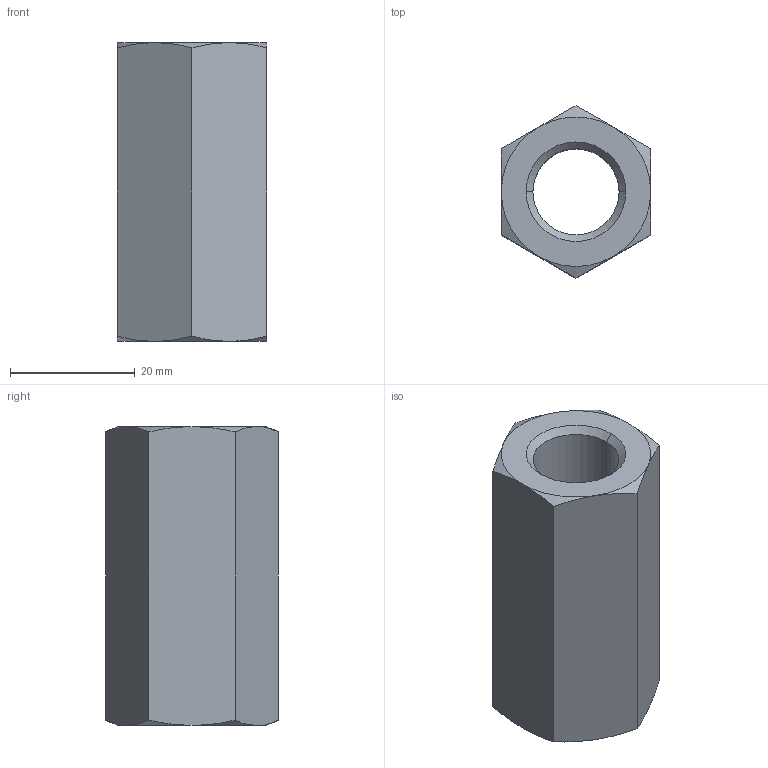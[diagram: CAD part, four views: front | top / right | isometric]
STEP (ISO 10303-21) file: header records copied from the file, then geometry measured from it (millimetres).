
FILE_DESCRIPTION(('STEP AP214'),'1');
FILE_NAME('cctmp_E830FEE5-5DF8-45AA-A87E-69862DD16DDE_2019_10_10_12_42_5_314..stp','2019-10-10T10:42:05',('Meusburger Georg GmbH & Co KG'),('CADClick - www.CADClick.com'),'Spatial InterOp 3D',' ','unknown authorization');
FILE_SCHEMA(('AUTOMOTIVE_DESIGN { 1 0 10303 214 1 1 1 1 }'));
Length unit declared in the file: millimetre
Products named in the file (1): HWS 9017_16
Bounding box: 24 x 27.71 x 48 mm (x, y, z)
Volume: 16645.2 mm3; surface area: 6682.7 mm2
Topology: 1 solids, 1 shells, 26 faces, 56 edges, 32 vertices
Faces by surface type: cone 16, plane 8, cylinder 2
Entity records: 952 total; most frequent: CARTESIAN_POINT 211, ORIENTED_EDGE 112, DIRECTION 106, EDGE_CURVE 56, AXIS2_PLACEMENT_3D 47, VERTEX_POINT 32, EDGE_LOOP 28, STYLED_ITEM 27
